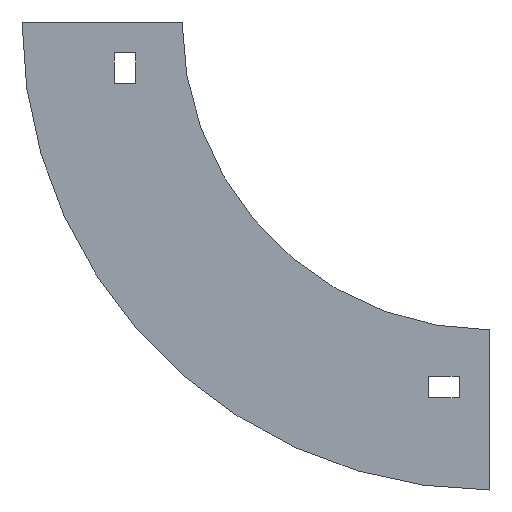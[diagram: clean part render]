
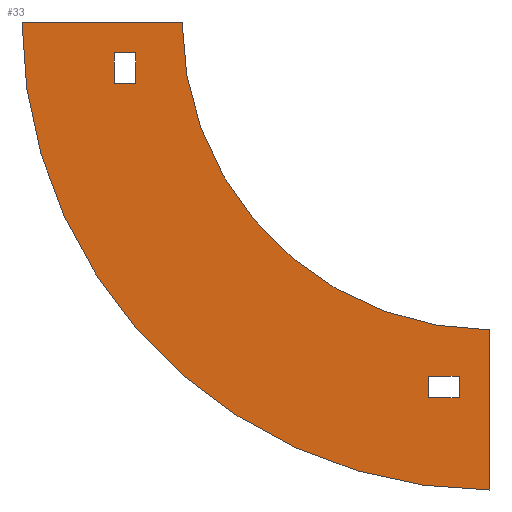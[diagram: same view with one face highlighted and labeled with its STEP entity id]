
A CAD part, left-side view. The second image highlights one B-rep face of the part: STEP entity #33.
In plain terms, the highlighted planar face has unit normal (-1, 0, 0).
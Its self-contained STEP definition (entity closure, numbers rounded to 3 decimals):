
#8 = CARTESIAN_POINT ( 'NONE',  ( -39.5, -90., -122. ) ) ;
#33 = ADVANCED_FACE ( 'NONE', ( #744, #839, #575 ), #1092, .T. ) ;
#38 = VECTOR ( 'NONE', #588, 1000. ) ;
#43 = CARTESIAN_POINT ( 'NONE',  ( -39.5, -100., -152. ) ) ;
#47 = VECTOR ( 'NONE', #1008, 1000. ) ;
#50 = EDGE_CURVE ( 'NONE', #1013, #832, #638, .T. ) ;
#63 = VERTEX_POINT ( 'NONE', #595 ) ;
#68 = CARTESIAN_POINT ( 'NONE',  ( -39.5, -90., -122. ) ) ;
#87 = LINE ( 'NONE', #539, #441 ) ;
#88 = CARTESIAN_POINT ( 'NONE',  ( -39.5, 22., -20. ) ) ;
#93 = LINE ( 'NONE', #970, #138 ) ;
#102 = DIRECTION ( 'NONE',  ( 0., 0., -1. ) ) ;
#105 = CARTESIAN_POINT ( 'NONE',  ( -39.5, -100., 0. ) ) ;
#119 = CARTESIAN_POINT ( 'NONE',  ( -39.5, 15., -10. ) ) ;
#138 = VECTOR ( 'NONE', #434, 1000. ) ;
#159 = ORIENTED_EDGE ( 'NONE', *, *, #810, .F. ) ;
#194 = CARTESIAN_POINT ( 'NONE',  ( -39.5, 22., -20. ) ) ;
#198 = DIRECTION ( 'NONE',  ( 0., 0., 1. ) ) ;
#201 = LINE ( 'NONE', #304, #47 ) ;
#216 = ORIENTED_EDGE ( 'NONE', *, *, #333, .T. ) ;
#217 = LINE ( 'NONE', #8, #272 ) ;
#239 = ORIENTED_EDGE ( 'NONE', *, *, #510, .T. ) ;
#245 = CARTESIAN_POINT ( 'NONE',  ( -39.5, 0., 0. ) ) ;
#249 = EDGE_CURVE ( 'NONE', #770, #1111, #894, .T. ) ;
#261 = CARTESIAN_POINT ( 'NONE',  ( -39.5, -90., -122. ) ) ;
#268 = CARTESIAN_POINT ( 'NONE',  ( -39.5, -100., -100. ) ) ;
#272 = VECTOR ( 'NONE', #656, 1000. ) ;
#287 = DIRECTION ( 'NONE',  ( 0., 0., 1. ) ) ;
#304 = CARTESIAN_POINT ( 'NONE',  ( -39.5, 22., -10. ) ) ;
#306 = VERTEX_POINT ( 'NONE', #119 ) ;
#307 = EDGE_CURVE ( 'NONE', #419, #1013, #573, .T. ) ;
#316 = VECTOR ( 'NONE', #102, 1000. ) ;
#319 = CARTESIAN_POINT ( 'NONE',  ( -39.5, 22., -10. ) ) ;
#333 = EDGE_CURVE ( 'NONE', #1046, #306, #201, .T. ) ;
#335 = LINE ( 'NONE', #88, #467 ) ;
#339 = CARTESIAN_POINT ( 'NONE',  ( -39.5, -90., -115. ) ) ;
#340 = ORIENTED_EDGE ( 'NONE', *, *, #50, .F. ) ;
#356 = LINE ( 'NONE', #268, #316 ) ;
#359 = CARTESIAN_POINT ( 'NONE',  ( -39.5, -100., -100. ) ) ;
#364 = LINE ( 'NONE', #639, #1093 ) ;
#365 = DIRECTION ( 'NONE',  ( 1., 0., 0. ) ) ;
#368 = AXIS2_PLACEMENT_3D ( 'NONE', #375, #365, #649 ) ;
#375 = CARTESIAN_POINT ( 'NONE',  ( -39.5, -100., 0. ) ) ;
#389 = ORIENTED_EDGE ( 'NONE', *, *, #249, .F. ) ;
#399 = CARTESIAN_POINT ( 'NONE',  ( -39.5, -100., 0. ) ) ;
#411 = LINE ( 'NONE', #319, #38 ) ;
#419 = VERTEX_POINT ( 'NONE', #501 ) ;
#434 = DIRECTION ( 'NONE',  ( 0., 1., 0. ) ) ;
#441 = VECTOR ( 'NONE', #715, 1000. ) ;
#459 = EDGE_CURVE ( 'NONE', #966, #1046, #411, .T. ) ;
#460 = DIRECTION ( 'NONE',  ( 0., 0., -1. ) ) ;
#467 = VECTOR ( 'NONE', #1127, 1000. ) ;
#501 = CARTESIAN_POINT ( 'NONE',  ( -39.5, 52., 0. ) ) ;
#510 = EDGE_CURVE ( 'NONE', #306, #63, #87, .T. ) ;
#539 = CARTESIAN_POINT ( 'NONE',  ( -39.5, 15., -10. ) ) ;
#571 = EDGE_CURVE ( 'NONE', #890, #975, #364, .T. ) ;
#573 = LINE ( 'NONE', #811, #620 ) ;
#575 = FACE_BOUND ( 'NONE', #648, .T. ) ;
#588 = DIRECTION ( 'NONE',  ( 0., 0., 1. ) ) ;
#595 = CARTESIAN_POINT ( 'NONE',  ( -39.5, 15., -20. ) ) ;
#608 = AXIS2_PLACEMENT_3D ( 'NONE', #105, #1080, #287 ) ;
#620 = VECTOR ( 'NONE', #913, 1000. ) ;
#623 = VERTEX_POINT ( 'NONE', #43 ) ;
#638 = CIRCLE ( 'NONE', #608, 100. ) ;
#639 = CARTESIAN_POINT ( 'NONE',  ( -39.5, -80., -122. ) ) ;
#643 = VECTOR ( 'NONE', #1045, 1000. ) ;
#648 = EDGE_LOOP ( 'NONE', ( #159, #389, #695, #1050 ) ) ;
#649 = DIRECTION ( 'NONE',  ( 0., 0., 1. ) ) ;
#656 = DIRECTION ( 'NONE',  ( 0., -1., 0. ) ) ;
#678 = ORIENTED_EDGE ( 'NONE', *, *, #782, .T. ) ;
#695 = ORIENTED_EDGE ( 'NONE', *, *, #696, .F. ) ;
#696 = EDGE_CURVE ( 'NONE', #975, #770, #217, .T. ) ;
#715 = DIRECTION ( 'NONE',  ( 0., 0., -1. ) ) ;
#717 = EDGE_CURVE ( 'NONE', #623, #419, #864, .T. ) ;
#744 = FACE_BOUND ( 'NONE', #1021, .T. ) ;
#751 = DIRECTION ( 'NONE',  ( -1., 0., 0. ) ) ;
#770 = VERTEX_POINT ( 'NONE', #68 ) ;
#771 = CARTESIAN_POINT ( 'NONE',  ( -39.5, 22., -10. ) ) ;
#782 = EDGE_CURVE ( 'NONE', #63, #966, #335, .T. ) ;
#810 = EDGE_CURVE ( 'NONE', #1111, #890, #93, .T. ) ;
#811 = CARTESIAN_POINT ( 'NONE',  ( -39.5, 52., 0. ) ) ;
#813 = ORIENTED_EDGE ( 'NONE', *, *, #459, .T. ) ;
#831 = ORIENTED_EDGE ( 'NONE', *, *, #307, .F. ) ;
#832 = VERTEX_POINT ( 'NONE', #359 ) ;
#839 = FACE_OUTER_BOUND ( 'NONE', #860, .T. ) ;
#860 = EDGE_LOOP ( 'NONE', ( #340, #831, #959, #1002 ) ) ;
#864 = CIRCLE ( 'NONE', #368, 152. ) ;
#890 = VERTEX_POINT ( 'NONE', #1065 ) ;
#894 = LINE ( 'NONE', #261, #643 ) ;
#913 = DIRECTION ( 'NONE',  ( 0., -1., 0. ) ) ;
#959 = ORIENTED_EDGE ( 'NONE', *, *, #717, .F. ) ;
#966 = VERTEX_POINT ( 'NONE', #194 ) ;
#970 = CARTESIAN_POINT ( 'NONE',  ( -39.5, -90., -115. ) ) ;
#975 = VERTEX_POINT ( 'NONE', #1151 ) ;
#977 = EDGE_CURVE ( 'NONE', #832, #623, #356, .T. ) ;
#1002 = ORIENTED_EDGE ( 'NONE', *, *, #977, .F. ) ;
#1008 = DIRECTION ( 'NONE',  ( 0., -1., 0. ) ) ;
#1013 = VERTEX_POINT ( 'NONE', #245 ) ;
#1021 = EDGE_LOOP ( 'NONE', ( #216, #239, #678, #813 ) ) ;
#1024 = AXIS2_PLACEMENT_3D ( 'NONE', #399, #751, #198 ) ;
#1045 = DIRECTION ( 'NONE',  ( 0., 0., 1. ) ) ;
#1046 = VERTEX_POINT ( 'NONE', #771 ) ;
#1050 = ORIENTED_EDGE ( 'NONE', *, *, #571, .F. ) ;
#1065 = CARTESIAN_POINT ( 'NONE',  ( -39.5, -80., -115. ) ) ;
#1080 = DIRECTION ( 'NONE',  ( -1., 0., 0. ) ) ;
#1092 = PLANE ( 'NONE',  #1024 ) ;
#1093 = VECTOR ( 'NONE', #460, 1000. ) ;
#1111 = VERTEX_POINT ( 'NONE', #339 ) ;
#1127 = DIRECTION ( 'NONE',  ( 0., 1., 0. ) ) ;
#1151 = CARTESIAN_POINT ( 'NONE',  ( -39.5, -80., -122. ) ) ;
